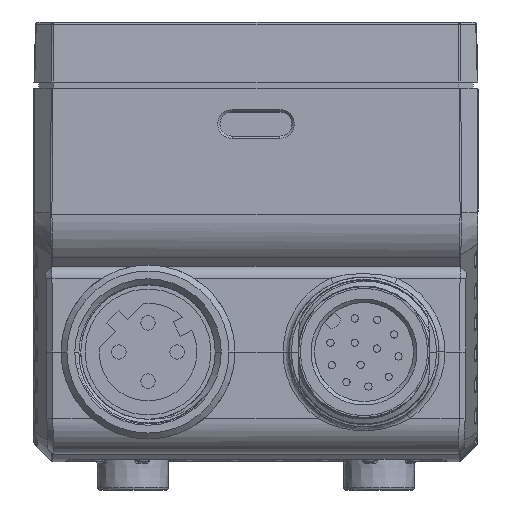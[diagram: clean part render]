
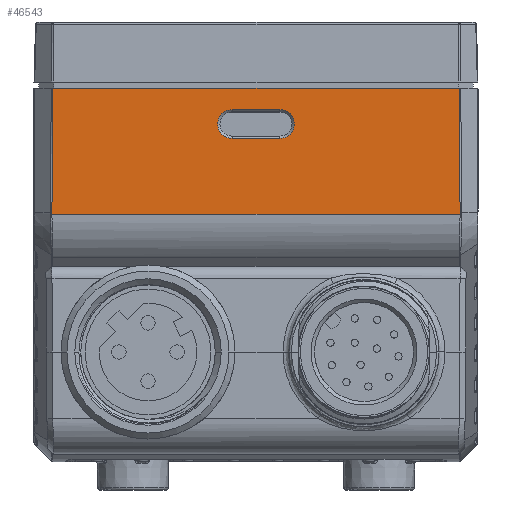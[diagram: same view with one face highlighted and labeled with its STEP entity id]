
A CAD part, front view. The second image highlights one B-rep face of the part: STEP entity #46543.
In plain terms, the highlighted planar face has unit normal (0, -1, -0.009).
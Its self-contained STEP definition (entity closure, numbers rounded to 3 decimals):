
#6068=CARTESIAN_POINT('',(16.917,-57.,33.5));
#11095=DIRECTION('',(0.009,-0.009,1.));
#11096=VECTOR('',#11095,10.39);
#11097=CARTESIAN_POINT('',(-17.008,-56.909,
23.111));
#11098=LINE('',#11097,#11096);
#11102=DIRECTION('',(1.,0.,0.));
#11103=VECTOR('',#11102,33.834);
#11104=CARTESIAN_POINT('',(-16.917,-57.,33.5));
#11105=LINE('',#11104,#11103);
#11109=DIRECTION('',(0.009,0.009,-1.));
#11110=VECTOR('',#11109,10.39);
#11111=CARTESIAN_POINT('',(16.917,-57.,33.5));
#11112=LINE('',#11111,#11110);
#11116=CARTESIAN_POINT('',(-1.999,-56.984,
31.7));
#11117=CARTESIAN_POINT('',(-2.118,-56.984,
31.7));
#11118=CARTESIAN_POINT('',(-2.343,-56.984,
31.666));
#11119=CARTESIAN_POINT('',(-2.66,-56.983,
31.522));
#11120=CARTESIAN_POINT('',(-2.919,-56.981,
31.297));
#11121=CARTESIAN_POINT('',(-3.106,-56.978,
31.008));
#11122=CARTESIAN_POINT('',(-3.205,-56.975,
30.675));
#11123=CARTESIAN_POINT('',(-3.206,-56.972,
30.331));
#11124=CARTESIAN_POINT('',(-3.11,-56.969,
29.998));
#11125=CARTESIAN_POINT('',(-2.925,-56.967,
29.706));
#11126=CARTESIAN_POINT('',(-2.664,-56.965,
29.477));
#11127=CARTESIAN_POINT('',(-2.344,-56.964,
29.33));
#11128=CARTESIAN_POINT('',(-2.119,-56.963,
29.296));
#11129=CARTESIAN_POINT('',(-1.999,-56.963,
29.296));
#11134=CARTESIAN_POINT('',(1.999,-56.963,
29.297));
#11135=CARTESIAN_POINT('',(2.118,-56.963,
29.297));
#11136=CARTESIAN_POINT('',(2.343,-56.964,
29.33));
#11137=CARTESIAN_POINT('',(2.66,-56.965,
29.475));
#11138=CARTESIAN_POINT('',(2.919,-56.967,
29.7));
#11139=CARTESIAN_POINT('',(3.106,-56.969,
29.988));
#11140=CARTESIAN_POINT('',(3.205,-56.972,
30.321));
#11141=CARTESIAN_POINT('',(3.206,-56.975,
30.666));
#11142=CARTESIAN_POINT('',(3.11,-56.978,
30.999));
#11143=CARTESIAN_POINT('',(2.925,-56.981,
31.29));
#11144=CARTESIAN_POINT('',(2.664,-56.983,
31.519));
#11145=CARTESIAN_POINT('',(2.344,-56.984,
31.666));
#11146=CARTESIAN_POINT('',(2.119,-56.984,
31.7));
#11147=CARTESIAN_POINT('',(1.999,-56.984,
31.7));
#11152=CARTESIAN_POINT('',(12.198,-56.909,
23.069));
#11153=DIRECTION('',(0.,-1.,-0.009));
#11154=DIRECTION('',(1.,0.,-0.019));
#11155=AXIS2_PLACEMENT_3D('',#11152,#11153,#11154);
#20795=CARTESIAN_POINT('',(-12.198,-56.909,
23.069));
#20796=DIRECTION('',(0.,-1.,-0.009));
#20797=DIRECTION('',(-1.,0.,0.009));
#20798=AXIS2_PLACEMENT_3D('',#20795,#20796,#20797);
#20857=DIRECTION('',(1.,0.,0.));
#20858=VECTOR('',#20857,34.014);
#20859=CARTESIAN_POINT('',(-17.007,-56.908,
22.976));
#20860=LINE('',#20859,#20858);
#30361=DIRECTION('',(1.,0.,0.));
#30362=VECTOR('',#30361,3.999);
#30363=CARTESIAN_POINT('',(-1.999,-56.984,
31.7));
#30364=LINE('',#30363,#30362);
#30429=DIRECTION('',(-1.,0.,0.));
#30430=VECTOR('',#30429,3.999);
#30431=CARTESIAN_POINT('',(1.999,-56.963,
29.297));
#30432=LINE('',#30431,#30430);
#33586=VERTEX_POINT('',#6068);
#33587=CARTESIAN_POINT('',(-16.917,-57.,33.5));
#33588=VERTEX_POINT('',#33587);
#33626=CARTESIAN_POINT('',(17.008,-56.909,
23.111));
#33627=VERTEX_POINT('',#33626);
#34466=CARTESIAN_POINT('',(-17.008,-56.909,
23.111));
#34467=VERTEX_POINT('',#34466);
#34468=CARTESIAN_POINT('',(17.007,-56.908,
22.976));
#34469=VERTEX_POINT('',#34468);
#34470=CARTESIAN_POINT('',(-17.007,-56.908,
22.976));
#34471=VERTEX_POINT('',#34470);
#34472=VERTEX_POINT('',#11116);
#34473=VERTEX_POINT('',#11129);
#34474=CARTESIAN_POINT('',(1.999,-56.963,
29.297));
#34475=VERTEX_POINT('',#34474);
#34476=VERTEX_POINT('',#11147);
#46517=CARTESIAN_POINT('',(-20.589,-57.,33.5));
#46518=DIRECTION('',(0.,-1.,-0.009));
#46519=DIRECTION('',(1.,0.,0.));
#46520=AXIS2_PLACEMENT_3D('',#46517,#46518,#46519);
#46521=PLANE('',#46520);
#46523=ORIENTED_EDGE('',*,*,#46522,.F.);
#46525=ORIENTED_EDGE('',*,*,#46524,.F.);
#46527=ORIENTED_EDGE('',*,*,#46526,.F.);
#46528=ORIENTED_EDGE('',*,*,#46502,.T.);
#46529=ORIENTED_EDGE('',*,*,#41370,.T.);
#46530=ORIENTED_EDGE('',*,*,#41433,.T.);
#46531=EDGE_LOOP('',(#46523,#46525,#46527,#46528,#46529,#46530));
#46532=FACE_OUTER_BOUND('',#46531,.F.);
#46534=ORIENTED_EDGE('',*,*,#46533,.T.);
#46536=ORIENTED_EDGE('',*,*,#46535,.F.);
#46538=ORIENTED_EDGE('',*,*,#46537,.T.);
#46540=ORIENTED_EDGE('',*,*,#46539,.F.);
#46541=EDGE_LOOP('',(#46534,#46536,#46538,#46540));
#46542=FACE_BOUND('',#46541,.F.);
#46543=ADVANCED_FACE('',(#46532,#46542),#46521,.T.);
#11130=B_SPLINE_CURVE_WITH_KNOTS('',3,(#11116,#11117,#11118,#11119,#11120,
#11121,#11122,#11123,#11124,#11125,#11126,#11127,#11128,#11129),.UNSPECIFIED.,
.F.,.F.,(4,1,1,1,1,1,1,1,1,1,1,4),(0.,0.091,0.182,
0.273,0.364,0.455,0.545,
0.636,0.727,0.818,0.909,1.),
.UNSPECIFIED.);
#11148=B_SPLINE_CURVE_WITH_KNOTS('',3,(#11134,#11135,#11136,#11137,#11138,
#11139,#11140,#11141,#11142,#11143,#11144,#11145,#11146,#11147),.UNSPECIFIED.,
.F.,.F.,(4,1,1,1,1,1,1,1,1,1,1,4),(0.,0.091,0.182,
0.273,0.364,0.455,0.545,
0.636,0.727,0.818,0.909,1.),
.UNSPECIFIED.);
#11156=CIRCLE('',#11155,4.81);
#20799=CIRCLE('',#20798,4.81);
#41370=EDGE_CURVE('',#33588,#33586,#11105,.T.);
#41433=EDGE_CURVE('',#33586,#33627,#11112,.T.);
#46502=EDGE_CURVE('',#34467,#33588,#11098,.T.);
#46522=EDGE_CURVE('',#34469,#33627,#11156,.T.);
#46524=EDGE_CURVE('',#34471,#34469,#20860,.T.);
#46526=EDGE_CURVE('',#34467,#34471,#20799,.T.);
#46533=EDGE_CURVE('',#34472,#34473,#11130,.T.);
#46535=EDGE_CURVE('',#34475,#34473,#30432,.T.);
#46537=EDGE_CURVE('',#34475,#34476,#11148,.T.);
#46539=EDGE_CURVE('',#34472,#34476,#30364,.T.);
